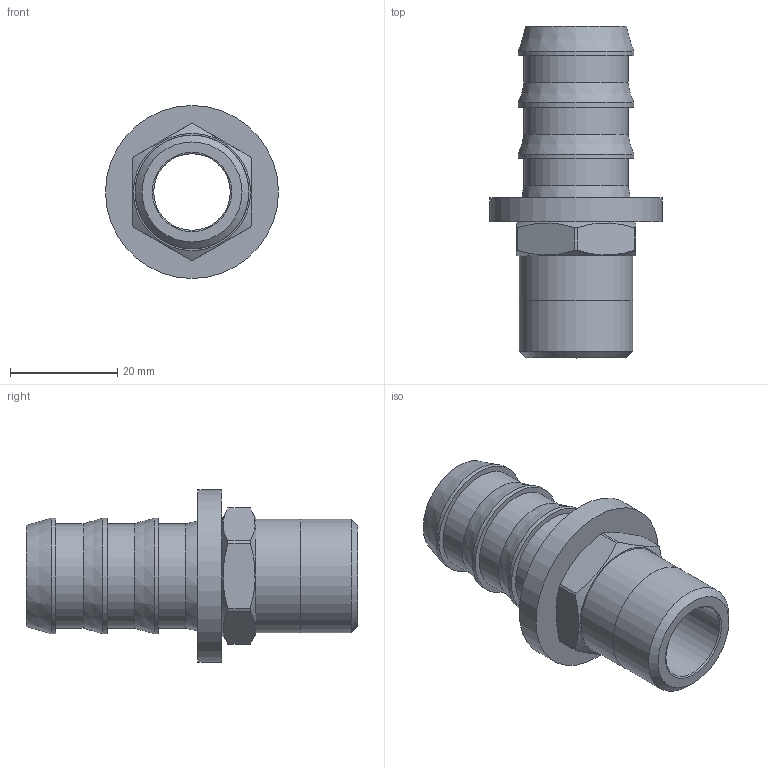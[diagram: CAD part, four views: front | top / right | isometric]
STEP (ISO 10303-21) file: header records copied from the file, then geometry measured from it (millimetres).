
FILE_DESCRIPTION(/* description */ (''),/* implementation_level */ '2;1');
FILE_NAME(/* name */ 'C:/Users/drich/Desktop/PLM-12-08 v1.step',/* time_stamp */ '2020-02-02T14:48:39-06:00',/* author */ (''),/* organization */ (''),/* preprocessor_version */ 'ST-DEVELOPER v18',/* originating_system */ 'Autodesk Translation Framework v8.12.0.6',/* authorisation */ '');
FILE_SCHEMA (('AUTOMOTIVE_DESIGN { 1 0 10303 214 3 1 1 }'));
Length unit declared in the file: inch
Products named in the file (3): PLM-12-08; 12 -08 THREAD v1; FW-15
Assembly tree (2 placements, depth 2):
  PLM-12-08
    12 -08 THREAD v1
    FW-15
Bounding box: 32.26 x 61.9 x 32.26 mm (x, y, z)
Volume: 12030.6 mm3; surface area: 9560.7 mm2
Topology: 3 solids, 3 shells, 49 faces, 130 edges, 94 vertices
Faces by surface type: cylinder 21, plane 19, cone 8, torus 1
Full cylindrical faces by diameter (mm): 14.275 x2, 19.431 x3, 20.32 x1, 21.209 x1, 21.26 x1, 21.59 x5, 29.718 x1, 32.258 x1
Entity records: 1705 total; most frequent: DIRECTION 309, CARTESIAN_POINT 302, ORIENTED_EDGE 260, AXIS2_PLACEMENT_3D 137, EDGE_CURVE 130, VERTEX_POINT 94, CIRCLE 83, EDGE_LOOP 62
